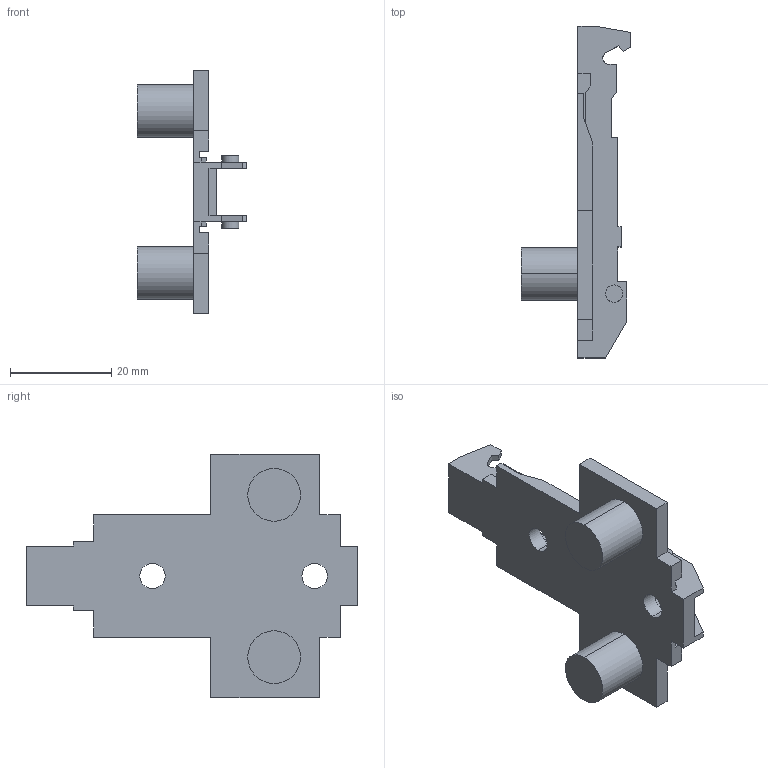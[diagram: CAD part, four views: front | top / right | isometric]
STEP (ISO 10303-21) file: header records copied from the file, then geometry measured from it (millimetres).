
FILE_DESCRIPTION (( 'STEP AP214' ), '1' );
FILE_NAME ('1D_Kreuzmontageplatte 28_32_10mm_Dübel_0.step', '2010-11-18T10:18:21', ( 'grass' ), ( '' ), 'SwSTEP 2.0', 'SolidWorks 2010', '' );
FILE_SCHEMA (( 'AUTOMOTIVE_DESIGN' ));
Length unit declared in the file: millimetre
Products named in the file (1): 1D_Kreuzmontageplatte 28_32_10mm_Dübel_0
Bounding box: 21.7 x 65.5 x 48 mm (x, y, z)
Volume: 7909 mm3; surface area: 6904.3 mm2
Topology: 1 solids, 1 shells, 112 faces, 308 edges, 204 vertices
Faces by surface type: plane 86, cylinder 22, cone 4
Entity records: 3570 total; most frequent: CARTESIAN_POINT 625, ORIENTED_EDGE 616, DIRECTION 582, EDGE_CURVE 308, VECTOR 260, LINE 260, VERTEX_POINT 204, AXIS2_PLACEMENT_3D 161
